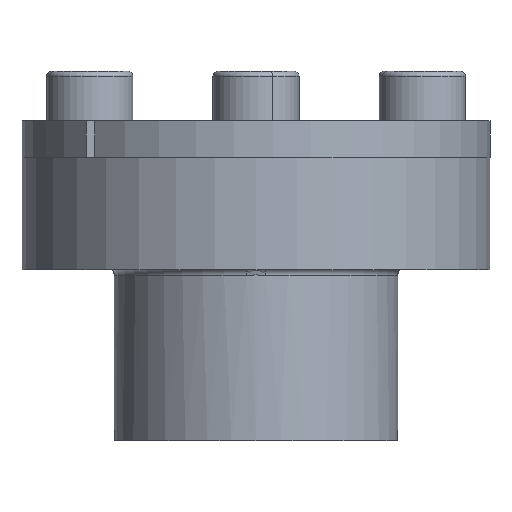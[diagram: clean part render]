
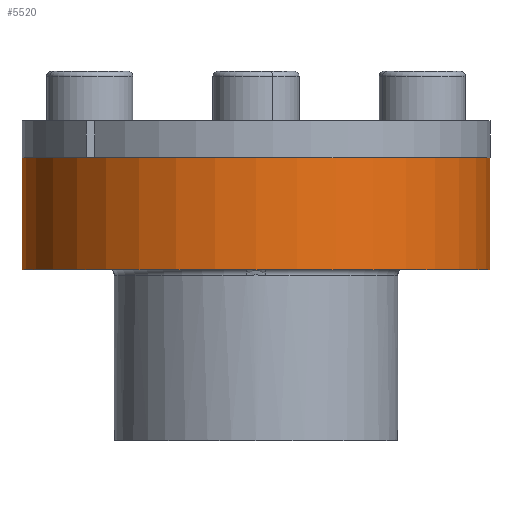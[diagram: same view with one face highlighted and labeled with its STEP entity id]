
A CAD part, front view. The second image highlights one B-rep face of the part: STEP entity #5520.
In plain terms, the highlighted cylindrical face has radius 19 mm (diameter 38 mm), a partial arc.
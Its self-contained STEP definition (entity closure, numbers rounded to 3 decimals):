
#101 = LINE ( 'NONE', #3889, #6444 ) ;
#208 = ORIENTED_EDGE ( 'NONE', *, *, #5341, .T. ) ;
#407 = FACE_OUTER_BOUND ( 'NONE', #3057, .T. ) ;
#410 = ORIENTED_EDGE ( 'NONE', *, *, #4425, .F. ) ;
#420 = CARTESIAN_POINT ( 'NONE',  ( 0., 0., 2.982 ) ) ;
#1069 = DIRECTION ( 'NONE',  ( 1., 0., 0. ) ) ;
#1680 = DIRECTION ( 'NONE',  ( 0., 0., -1. ) ) ;
#1728 = ORIENTED_EDGE ( 'NONE', *, *, #5182, .F. ) ;
#1853 = CARTESIAN_POINT ( 'NONE',  ( -19., 0., 2.982 ) ) ;
#2052 = DIRECTION ( 'NONE',  ( 0., 0., -1. ) ) ;
#2167 = LINE ( 'NONE', #1853, #3816 ) ;
#2222 = VERTEX_POINT ( 'NONE', #5588 ) ;
#2348 = DIRECTION ( 'NONE',  ( 0., 0., 1. ) ) ;
#2388 = DIRECTION ( 'NONE',  ( 0., 0., -1. ) ) ;
#2923 = CARTESIAN_POINT ( 'NONE',  ( 0., 0., 2.982 ) ) ;
#2946 = CYLINDRICAL_SURFACE ( 'NONE', #5290, 19. ) ;
#2950 = DIRECTION ( 'NONE',  ( -1., 0., 0. ) ) ;
#3057 = EDGE_LOOP ( 'NONE', ( #410, #1728, #208, #4313 ) ) ;
#3723 = CARTESIAN_POINT ( 'NONE',  ( -19., 0., -6.118 ) ) ;
#3816 = VECTOR ( 'NONE', #2388, 1000. ) ;
#3889 = CARTESIAN_POINT ( 'NONE',  ( 19., 0., 2.982 ) ) ;
#4163 = VERTEX_POINT ( 'NONE', #7246 ) ;
#4313 = ORIENTED_EDGE ( 'NONE', *, *, #5536, .T. ) ;
#4348 = VERTEX_POINT ( 'NONE', #7390 ) ;
#4425 = EDGE_CURVE ( 'NONE', #4163, #2222, #101, .T. ) ;
#4745 = DIRECTION ( 'NONE',  ( 0., 0., 1. ) ) ;
#4864 = AXIS2_PLACEMENT_3D ( 'NONE', #6005, #2348, #6605 ) ;
#5182 = EDGE_CURVE ( 'NONE', #4348, #4163, #5849, .T. ) ;
#5290 = AXIS2_PLACEMENT_3D ( 'NONE', #2923, #1680, #2950 ) ;
#5341 = EDGE_CURVE ( 'NONE', #4348, #6047, #2167, .T. ) ;
#5520 = ADVANCED_FACE ( 'NONE', ( #407 ), #2946, .T. ) ;
#5536 = EDGE_CURVE ( 'NONE', #6047, #2222, #6168, .T. ) ;
#5588 = CARTESIAN_POINT ( 'NONE',  ( 19., 0., -6.118 ) ) ;
#5849 = CIRCLE ( 'NONE', #7719, 19. ) ;
#6005 = CARTESIAN_POINT ( 'NONE',  ( 0., 0., -6.118 ) ) ;
#6047 = VERTEX_POINT ( 'NONE', #3723 ) ;
#6168 = CIRCLE ( 'NONE', #4864, 19. ) ;
#6444 = VECTOR ( 'NONE', #2052, 1000. ) ;
#6605 = DIRECTION ( 'NONE',  ( 1., 0., 0. ) ) ;
#7246 = CARTESIAN_POINT ( 'NONE',  ( 19., 0., 2.982 ) ) ;
#7390 = CARTESIAN_POINT ( 'NONE',  ( -19., 0., 2.982 ) ) ;
#7719 = AXIS2_PLACEMENT_3D ( 'NONE', #420, #4745, #1069 ) ;
